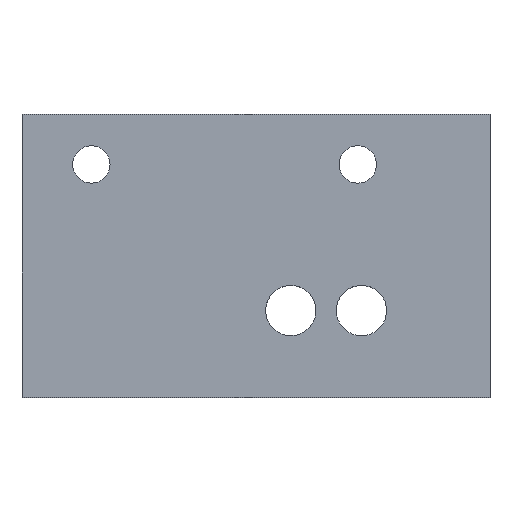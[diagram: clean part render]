
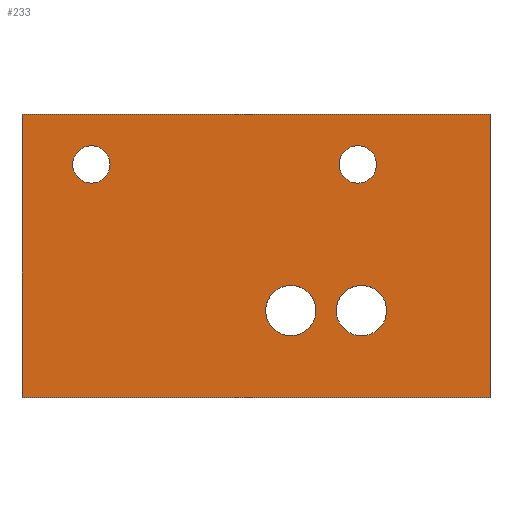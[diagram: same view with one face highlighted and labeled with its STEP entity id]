
A CAD part, top view. The second image highlights one B-rep face of the part: STEP entity #233.
In plain terms, the highlighted planar face has unit normal (0, 0, 1).
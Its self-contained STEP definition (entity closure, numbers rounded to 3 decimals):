
#17=FACE_BOUND('',#50,.T.);
#18=FACE_BOUND('',#51,.T.);
#19=FACE_BOUND('',#52,.T.);
#20=FACE_BOUND('',#53,.T.);
#25=PLANE('',#265);
#35=FACE_OUTER_BOUND('',#49,.T.);
#49=EDGE_LOOP('',(#183,#184,#185,#186));
#50=EDGE_LOOP('',(#187));
#51=EDGE_LOOP('',(#188));
#52=EDGE_LOOP('',(#189));
#53=EDGE_LOOP('',(#190));
#68=LINE('',#360,#90);
#73=LINE('',#376,#95);
#74=LINE('',#378,#96);
#75=LINE('',#379,#97);
#90=VECTOR('',#296,10.);
#95=VECTOR('',#309,10.);
#96=VECTOR('',#310,10.);
#97=VECTOR('',#311,10.);
#107=CIRCLE('',#256,1.7);
#109=CIRCLE('',#259,1.7);
#113=CIRCLE('',#266,1.264);
#114=CIRCLE('',#267,1.264);
#115=VERTEX_POINT('',#341);
#117=VERTEX_POINT('',#347);
#119=VERTEX_POINT('',#353);
#122=VERTEX_POINT('',#358);
#129=VERTEX_POINT('',#375);
#130=VERTEX_POINT('',#377);
#131=VERTEX_POINT('',#380);
#132=VERTEX_POINT('',#382);
#135=EDGE_CURVE('',#115,#115,#107,.T.);
#138=EDGE_CURVE('',#117,#117,#109,.T.);
#144=EDGE_CURVE('',#122,#119,#68,.T.);
#151=EDGE_CURVE('',#129,#122,#73,.T.);
#152=EDGE_CURVE('',#129,#130,#74,.T.);
#153=EDGE_CURVE('',#130,#119,#75,.T.);
#154=EDGE_CURVE('',#131,#131,#113,.T.);
#155=EDGE_CURVE('',#132,#132,#114,.T.);
#183=ORIENTED_EDGE('',*,*,#151,.F.);
#184=ORIENTED_EDGE('',*,*,#152,.T.);
#185=ORIENTED_EDGE('',*,*,#153,.T.);
#186=ORIENTED_EDGE('',*,*,#144,.F.);
#187=ORIENTED_EDGE('',*,*,#135,.T.);
#188=ORIENTED_EDGE('',*,*,#138,.T.);
#189=ORIENTED_EDGE('',*,*,#154,.T.);
#190=ORIENTED_EDGE('',*,*,#155,.T.);
#233=ADVANCED_FACE('',(#35,#17,#18,#19,#20),#25,.T.);
#256=AXIS2_PLACEMENT_3D('',#342,#279,#280);
#259=AXIS2_PLACEMENT_3D('',#348,#286,#287);
#265=AXIS2_PLACEMENT_3D('',#374,#307,#308);
#266=AXIS2_PLACEMENT_3D('',#381,#312,#313);
#267=AXIS2_PLACEMENT_3D('',#383,#314,#315);
#279=DIRECTION('center_axis',(0.,0.,
-1.));
#280=DIRECTION('ref_axis',(-1.,0.,0.));
#286=DIRECTION('center_axis',(0.,0.,
-1.));
#287=DIRECTION('ref_axis',(-1.,0.,0.));
#296=DIRECTION('',(-1.,0.,0.));
#307=DIRECTION('center_axis',(0.,0.,
1.));
#308=DIRECTION('ref_axis',(-1.,0.,0.));
#309=DIRECTION('',(0.,-1.,0.));
#310=DIRECTION('',(-1.,0.,0.));
#311=DIRECTION('',(0.,-1.,0.));
#312=DIRECTION('center_axis',(0.,0.,
-1.));
#313=DIRECTION('ref_axis',(-1.,0.,0.));
#314=DIRECTION('center_axis',(0.,0.,
-1.));
#315=DIRECTION('ref_axis',(-1.,0.,0.));
#341=CARTESIAN_POINT('',(216.036,12.506,-16.869));
#342=CARTESIAN_POINT('Origin',(214.336,12.506,-16.869));
#347=CARTESIAN_POINT('',(220.811,12.506,-16.869));
#348=CARTESIAN_POINT('Origin',(219.111,12.506,-16.869));
#353=CARTESIAN_POINT('',(196.179,6.636,-16.869));
#358=CARTESIAN_POINT('',(227.793,6.636,-16.869));
#360=CARTESIAN_POINT('',(231.793,6.636,-16.869));
#374=CARTESIAN_POINT('Origin',(213.986,22.294,-16.869));
#375=CARTESIAN_POINT('',(227.793,25.752,-16.869));
#376=CARTESIAN_POINT('',(227.793,20.565,-16.869));
#377=CARTESIAN_POINT('',(196.179,25.752,-16.869));
#378=CARTESIAN_POINT('',(196.179,25.752,-16.869));
#379=CARTESIAN_POINT('',(196.179,17.636,-16.869));
#380=CARTESIAN_POINT('',(202.128,22.375,-16.869));
#381=CARTESIAN_POINT('Origin',(200.864,22.375,-16.869));
#382=CARTESIAN_POINT('',(220.128,22.375,-16.869));
#383=CARTESIAN_POINT('Origin',(218.864,22.375,-16.869));
